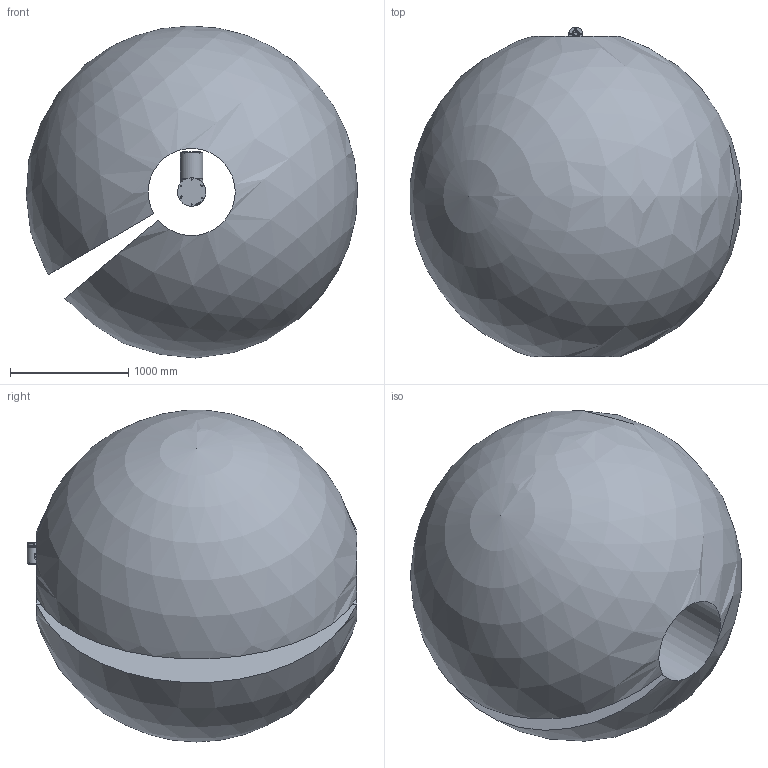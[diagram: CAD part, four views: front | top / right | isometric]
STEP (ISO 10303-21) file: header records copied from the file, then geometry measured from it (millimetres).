
FILE_DESCRIPTION (( 'STEP AP214' ), '1' );
FILE_NAME ('FR30-V6.0-外发模型-包络图.STEP', '2025-12-28T00:02:09', ( '崔兵' ), ( '' ), 'SwSTEP 2.0', 'SolidWorks 2018', '' );
FILE_SCHEMA (( 'AUTOMOTIVE_DESIGN' ));
Length unit declared in the file: millimetre
Products named in the file (9): RD20-FR30-V6.0-4; RD20-FR30-V6.0-2; RD20-FR30-V6.0-1; RD20-FR30-V6.0-3; RD20-FR30-V6.0-7; FR30-V6.0-俋楷耀倰-婦釐芞; RD20-FR30-V6.0-6; FR30堍雄毓峓; RD20-FR30-V6.0-5
Assembly tree (8 placements, depth 2):
  FR30-V6.0-俋楷耀倰-婦釐芞
    RD20-FR30-V6.0-1
    RD20-FR30-V6.0-2
    RD20-FR30-V6.0-3
    RD20-FR30-V6.0-4
    RD20-FR30-V6.0-5
    RD20-FR30-V6.0-6
    RD20-FR30-V6.0-7
    FR30堍雄毓峓
Bounding box: 2799.4 x 2785.88 x 2805.52 mm (x, y, z)
Volume: 10150166880.5 mm3; surface area: 35418802 mm2
Topology: 60 solids, 85 shells, 1396 faces, 2901 edges, 1875 vertices
Faces by surface type: plane 717, cylinder 336, bspline 222, cone 108, torus 12, sphere 1
Full cylindrical faces by diameter (mm): 0.747 x4, 0.777 x1, 0.786 x7, 0.935 x1, 1 x12, 1.145 x1, 1.548 x8, 3 x24, 3.3 x1, 3.4 x8, 5 x17, 6 x9, 8 x4, 9.995 x2, 10.5 x6, 12 x9, 13.5 x2, 14 x2, 14.1 x2, 15 x2, 16.022 x2, 18.475 x1, 31.5 x1, 46 x3, 63 x1, 88 x1, 94 x6, 95 x3, 107.5 x1, 110 x7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
Entity records: 125682 total; most frequent: CARTESIAN_POINT 98746, ORIENTED_EDGE 4850, DIRECTION 4751, EDGE_CURVE 2425, EDGE_LOOP 2014, AXIS2_PLACEMENT_3D 1919, VERTEX_POINT 1739, FACE_OUTER_BOUND 1643
